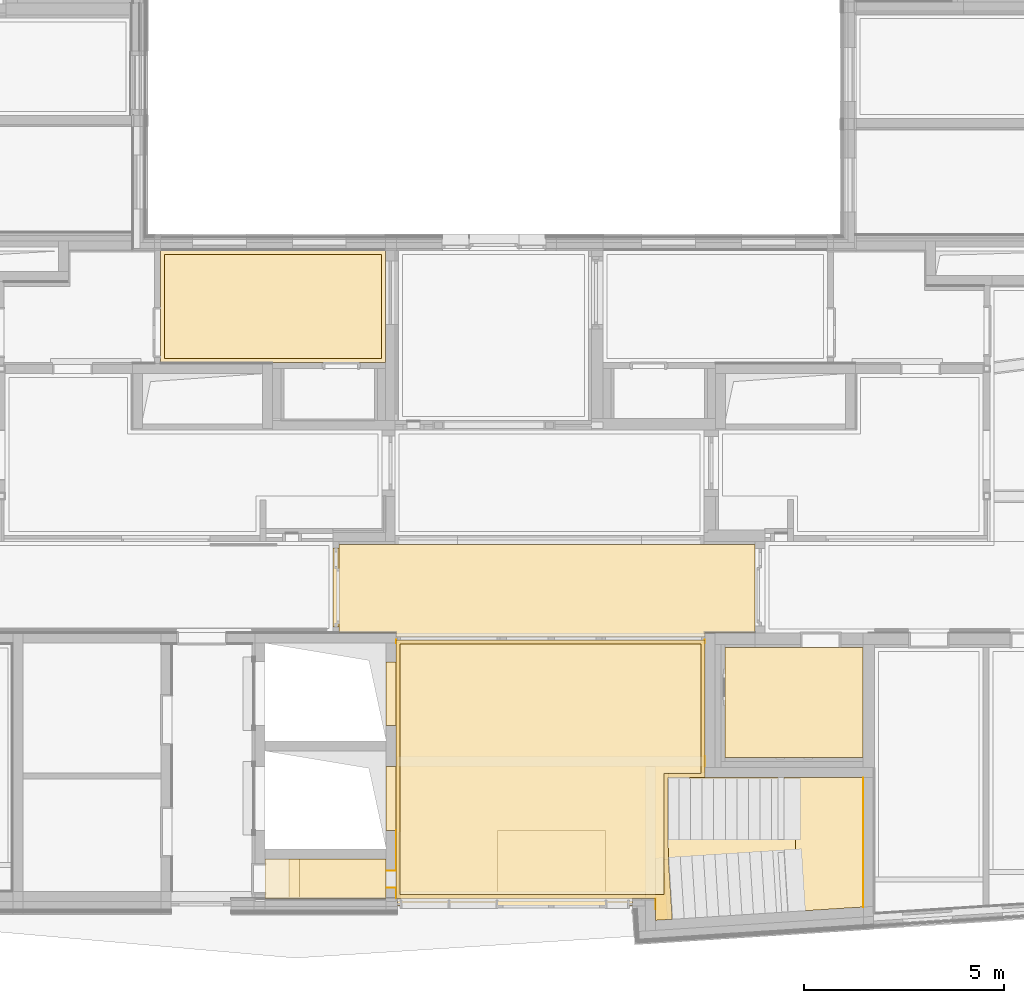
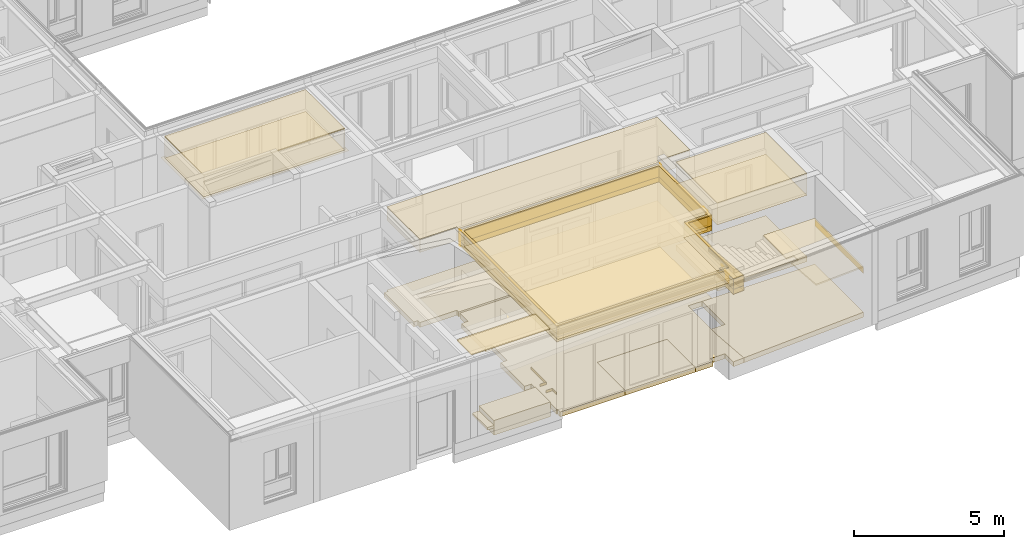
# One storey, part 167 of 207: 33 coverings.
"""IFC4 building model written with IfcOpenShell, lengths in metres."""

from ifc_helpers import new_model, entity, si_unit, converted_unit, derived_unit, frame, frame_2d, origin, origin_with_axes, place, context, subcontext, project, spatial, polyline, rectangle, outline, extrude, material, layer, layer_set, layer_usage, element, save


model = new_model("IFC4")

# Units and contexts
model_context = context("Model", 3, precision=1e-05, world=origin())
body_context = subcontext(model_context, "Body", "Model", "MODEL_VIEW")
ifc_project = project(units=[si_unit("LENGTHUNIT", "METRE"), si_unit("AREAUNIT", "SQUARE_METRE"), si_unit("VOLUMEUNIT", "CUBIC_METRE"), si_unit("MASSUNIT", "GRAM", prefix="KILO"), converted_unit("PLANEANGLEUNIT", "DEGREE", entity("IfcPlaneAngleMeasure", 0.0174532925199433), si_unit("PLANEANGLEUNIT", "RADIAN"), dimensions=[0, 0, 0, 0, 0, 0, 0]), derived_unit("THERMALTRANSMITTANCEUNIT", [(si_unit("POWERUNIT", "WATT"), 1), (si_unit("THERMODYNAMICTEMPERATUREUNIT", "KELVIN"), -1), (si_unit("LENGTHUNIT", "METRE"), -2)]), derived_unit("VOLUMETRICFLOWRATEUNIT", [(si_unit("LENGTHUNIT", "METRE"), 3), (converted_unit("TIMEUNIT", "hour", entity("IfcTimeMeasure", 3600.0), si_unit("TIMEUNIT", "SECOND"), dimensions=[0, 0, 1, 0, 0, 0, 0]), -1), (si_unit("LENGTHUNIT", "METRE"), -1)])], contexts=[model_context])

# Site, building, storey, space
site_placement = place(None, origin())
site = spatial("IfcSite", under=ifc_project, at=site_placement, Name="Psychiatrie Neubau Wunstorf", CompositionType="ELEMENT")
building_placement = place(site_placement, origin())
building = spatial("IfcBuilding", under=site, at=building_placement, Name="Neubau H2 Stationsgebäude", CompositionType="ELEMENT")
storey_placement = place(building_placement, frame((0.0, 0.0, -0.2)))
storey = spatial("IfcBuildingStorey", under=building, at=storey_placement, Name="H2 Ebene 0", CompositionType="ELEMENT", Elevation=-0.2)
space_1_placement = place(storey_placement, frame((49.1196999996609, 0.436002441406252, 0.0)))
space_1 = spatial("IfcSpace", under=storey, at=space_1_placement, Name="WUN-H2-E00-F01", CompositionType="ELEMENT")

# Coverings
ifc_material_1 = material(Name="Ku1")
ifc_layer_1 = layer(ifc_material_1, 0.2)
ifc_layer_set_1 = layer_set([ifc_layer_1])
ifc_layer_usage_1 = layer_usage(ifc_layer_set_1, "AXIS3", "POSITIVE", 0.0)
covering_1_placement = place(space_1_placement, frame((-0.154999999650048, -0.0800000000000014, 0.0)))
element("IfcCovering", 1, at=covering_1_placement, inside=space_1, material=ifc_layer_usage_1, Name="PVC Bahnenware Holzoptik", PredefinedType="FLOORING", context=body_context, shape_type="SweptSolid", body=[
    extrude(rectangle(XDim=0.08, YDim=2.56, at=frame_2d((1.28, -0.0400000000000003), x_axis=(0.0, -1.0))), frame((4.18429982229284, 0.0800000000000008, 0.0), z_axis=(0.0, 0.0, 1.0), x_axis=(1.0, 0.0, 0.0)), (0.0, 0.0, 1.0), 0.2),
    extrude(rectangle(XDim=0.155, YDim=1.9825, at=frame_2d((0.0775, 0.99125), x_axis=(1.0, 0.0))), frame((0.0, 0.32399740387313, 0.0), z_axis=(0.0, 0.0, 1.0), x_axis=(1.0, 0.0, 0.0)), (0.0, 0.0, 1.0), 0.2),
    extrude(outline(polyline([(10.4196138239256, 2.30660565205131), (0.0, 2.30649724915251), (0.0, 0.112997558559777), (1.43030000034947, 0.112997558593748), (1.43030000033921, 0.0), (9.15830000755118, 0.0), (9.15829513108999, 0.112997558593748), (10.4196138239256, 0.112997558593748), (10.4196138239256, 2.30660565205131)])), frame((0.154999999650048, 0.0800000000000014, 0.0), z_axis=(0.0, 0.0, 1.0), x_axis=(1.0, 0.0, 0.0)), (0.0, 0.0, 1.0), 0.2),
])
ifc_material_2 = material()
ifc_layer_2 = layer(ifc_material_2, 0.036)
ifc_layer_set_2 = layer_set([ifc_layer_2])
ifc_layer_usage_2 = layer_usage(ifc_layer_set_2, "AXIS3", "POSITIVE", 0.0)
covering_2_placement = place(space_1_placement, frame((0.0, 0.0, 3.6)))
element("IfcCovering", 2, at=covering_2_placement, inside=space_1, material=ifc_layer_usage_2, Name="Gipsfaserplatten 2-lagig (BSK)", PredefinedType="CEILING", context=body_context, shape_type="SweptSolid", body=[
    extrude(outline(polyline([(0.0, 0.000108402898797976), (10.4196138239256, 0.0), (10.4196138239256, 2.19360809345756), (9.15829513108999, 2.19360809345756), (9.15830000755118, 2.30660565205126), (1.43030000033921, 2.30660565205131), (1.43030000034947, 2.19360809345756), (0.0, 2.19360809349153), (0.0, 0.000108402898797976)])), frame((0.0, 2.30660565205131, 0.0), z_axis=(0.0, 0.0, -1.0), x_axis=(1.0, 0.0, 0.0)), (0.0, 0.0, 1.0), 0.036),
])
ifc_material_3 = material(Name="Installationshöhe")
ifc_layer_3 = layer(ifc_material_3, 0.514)
ifc_layer_set_3 = layer_set([ifc_layer_3])
ifc_layer_usage_3 = layer_usage(ifc_layer_set_3, "AXIS3", "POSITIVE", 0.0)
covering_3_placement = place(space_1_placement, frame((0.0, 0.0, 3.564)))
element("IfcCovering", 3, at=covering_3_placement, inside=space_1, material=ifc_layer_usage_3, Name="Gipsfaserplatten 2-lagig (BSK)", PredefinedType="CEILING", context=body_context, shape_type="SweptSolid", body=[
    extrude(outline(polyline([(0.0, 0.000108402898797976), (10.4196138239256, 0.0), (10.4196138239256, 2.19360809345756), (9.15829513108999, 2.19360809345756), (9.15830000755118, 2.30660565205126), (1.43030000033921, 2.30660565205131), (1.43030000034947, 2.19360809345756), (0.0, 2.19360809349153), (0.0, 0.000108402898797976)])), frame((0.0, 2.30660565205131, 0.0), z_axis=(0.0, 0.0, -1.0), x_axis=(1.0, 0.0, 0.0)), (0.0, 0.0, 1.0), 0.514),
])

# Space
space_2_placement = place(storey_placement, frame((50.5500000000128, -6.66463793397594, 0.0)))
space_2 = spatial("IfcSpace", under=storey, at=space_2_placement, Name="WUN-H2-E00-T01a", CompositionType="ELEMENT")

# Coverings
ifc_material_4 = material(Name="97")
ifc_layer_4 = layer(ifc_material_4, 0.001)
ifc_layer_set_4 = layer_set([ifc_layer_4])
ifc_layer_usage_4 = layer_usage(ifc_layer_set_4, "AXIS3", "POSITIVE", 0.0)
covering_4_placement = place(space_2_placement, frame((-0.250000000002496, 0.71963762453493, 0.8)))
element("IfcCovering", 4, at=covering_4_placement, inside=space_2, material=ifc_layer_usage_4, Name="Handlauf", PredefinedType="CLADDING", context=body_context, shape_type="SweptSolid", body=[
    extrude(rectangle(XDim=0.1, YDim=0.100908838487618, at=frame_2d((-0.0504544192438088, -0.05), x_axis=(0.0, -1.0))), frame((0.250000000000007, 0.0, 0.0), z_axis=(1.0, 3.60521324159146e-14, 3.6379788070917e-14), x_axis=(3.60521324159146e-14, -1.0, 0.0)), (0.0, 0.0, 1.0), 0.001),
    extrude(rectangle(XDim=0.1, YDim=1.01410336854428, at=frame_2d((-0.50705168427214, -0.05), x_axis=(0.0, -1.0))), frame((0.249999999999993, 0.520908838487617, 0.0), z_axis=(1.0, -7.17476919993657e-15, 0.0), x_axis=(-7.17476919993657e-15, -1.0, 0.0)), (0.0, 0.0, 1.0), 0.001),
    extrude(rectangle(XDim=0.25, YDim=0.1, at=frame_2d((0.125, -0.05), x_axis=(1.0, 0.0))), frame((0.0, 0.100908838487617, 0.0), z_axis=(0.0, 1.0, 0.0), x_axis=(1.0, 0.0, 0.0)), (0.0, 0.0, 1.0), 0.001),
    extrude(rectangle(XDim=0.249999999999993, YDim=0.1, at=frame_2d((0.124999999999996, -0.05), x_axis=(1.0, 0.0))), frame((0.249999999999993, 0.520908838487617, 0.0), z_axis=(0.0, -1.0, 0.0), x_axis=(-1.0, 0.0, 0.0)), (0.0, 0.0, 1.0), 0.001),
])
ifc_material_5 = material(Name="97")
ifc_layer_5 = layer(ifc_material_5, 0.001)
ifc_layer_set_5 = layer_set([ifc_layer_5])
ifc_layer_usage_5 = layer_usage(ifc_layer_set_5, "AXIS3", "POSITIVE", 0.0)
covering_5_placement = place(space_2_placement, frame((-0.250000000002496, 0.550637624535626, 0.8)))
element("IfcCovering", 5, at=covering_5_placement, inside=space_2, material=ifc_layer_usage_5, Name="Handlauf", PredefinedType="CLADDING", context=body_context, shape_type="SweptSolid", body=[
    extrude(rectangle(XDim=1.01410336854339, YDim=0.1, at=frame_2d((0.507051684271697, -0.05), x_axis=(1.0, 0.0))), frame((0.250000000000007, 1.70401220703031, 0.0), z_axis=(1.0, 1.9587119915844e-12, 0.0), x_axis=(1.9587119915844e-12, -1.0, 0.0)), (0.0, 0.0, 1.0), 0.001),
    extrude(rectangle(XDim=0.1, YDim=0.26990883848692, at=frame_2d((0.13495441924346, 0.05), x_axis=(0.0, 1.0))), frame((0.250000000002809, 0.269908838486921, 0.1), z_axis=(1.0, 1.96786777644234e-12, -2.45173331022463e-28), x_axis=(1.96786777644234e-12, -1.0, 0.0)), (0.0, 0.0, 1.0), 0.001),
    extrude(rectangle(XDim=0.25, YDim=0.1, at=frame_2d((0.125, -0.05), x_axis=(1.0, 0.0))), frame((0.0, 0.269908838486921, 0.0), z_axis=(0.0, 1.0, 0.0), x_axis=(1.0, 0.0, 0.0)), (0.0, 0.0, 1.0), 0.001),
    extrude(rectangle(XDim=0.249999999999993, YDim=0.1, at=frame_2d((0.124999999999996, -0.05), x_axis=(1.0, 0.0))), frame((0.249999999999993, 0.689908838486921, 0.0), z_axis=(0.0, -1.0, 0.0), x_axis=(-1.0, 0.0, 0.0)), (0.0, 0.0, 1.0), 0.001),
])
ifc_material_6 = material(Name="SL")
ifc_layer_6 = layer(ifc_material_6, 0.2)
ifc_layer_set_6 = layer_set([ifc_layer_6])
ifc_layer_usage_6 = layer_usage(ifc_layer_set_6, "AXIS3", "POSITIVE", 0.0)
covering_6_placement = place(space_2_placement, frame((2.5358482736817, 0.365137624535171, 0.0)))
element("IfcCovering", 6, at=covering_6_placement, inside=space_2, material=ifc_layer_usage_6, Name="Sauberlaufzone", PredefinedType="FLOORING", context=body_context, shape_type="SweptSolid", body=[
    extrude(rectangle(XDim=2.7, YDim=0.18549999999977, at=frame_2d((-1.35, -0.0927499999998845), x_axis=(-1.0, 3.36849889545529e-16))), frame((2.7, 0.185499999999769, 0.0), z_axis=(0.0, 0.0, 1.0), x_axis=(1.0, 0.0, 0.0)), (0.0, 0.0, 1.0), 0.2),
    extrude(rectangle(XDim=2.7, YDim=1.7, at=frame_2d((1.35, 0.85), x_axis=(1.0, 0.0))), frame((0.0, 0.185500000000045, 0.0), z_axis=(0.0, 0.0, 1.0), x_axis=(1.0, 0.0, 0.0)), (0.0, 0.0, 1.0), 0.2),
])
ifc_material_7 = material(Name="Fl12")
ifc_layer_7 = layer(ifc_material_7, 0.2)
ifc_layer_set_7 = layer_set([ifc_layer_7])
ifc_layer_usage_7 = layer_usage(ifc_layer_set_7, "AXIS3", "POSITIVE", 0.0)
covering_7_placement = place(space_2_placement, frame((-0.250000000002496, 0.0, 0.0)))
element("IfcCovering", 7, at=covering_7_placement, inside=space_2, material=ifc_layer_usage_7, Name="Fliesen Großformat", PredefinedType="FLOORING", context=body_context, shape_type="SweptSolid", body=[
    extrude(rectangle(XDim=5.89, YDim=0.185499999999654, at=frame_2d((-2.945, -0.0927499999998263), x_axis=(-1.0, 3.08826723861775e-16))), frame((6.16999963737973, 0.55063762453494, 0.0), z_axis=(0.0, 0.0, 1.0), x_axis=(1.0, 0.0, 0.0)), (0.0, 0.0, 1.0), 0.2),
    extrude(outline(polyline([(0.25, 7.02064037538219), (0.25, 6.47463762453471), (0.0, 6.47463762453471), (0.0, 4.87463762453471), (0.250000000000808, 4.87463762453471), (0.25, 3.85464983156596), (0.0, 3.85464983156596), (0.0, 2.25464983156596), (0.250000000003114, 2.25464983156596), (0.25000000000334, 0.550637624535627), (6.74338383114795, 0.55063762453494), (6.74338383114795, 0.0), (11.9497936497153, 0.334081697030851), (11.9497936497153, 3.57614661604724), (7.9780000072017, 3.57614661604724), (7.97800000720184, 7.02064037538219), (0.25, 7.02064037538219)]), holes=[polyline([(7.59481552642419, 3.57614661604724), (7.59481552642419, 2.02707420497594), (7.05976078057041, 2.02707420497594), (7.05981552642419, 3.57614661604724), (7.59481552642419, 3.57614661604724)])]), origin_with_axes(), (0.0, 0.0, 1.0), 0.2),
])
ifc_material_8 = material(Name="03")
ifc_layer_8 = layer(ifc_material_8, 0.001)
ifc_layer_set_8 = layer_set([ifc_layer_8])
ifc_layer_usage_8 = layer_usage(ifc_layer_set_8, "AXIS3", "POSITIVE", 0.0)
covering_8_placement = place(space_2_placement, frame((0.0, 0.27759323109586, 2.97)))
element("IfcCovering", 8, at=covering_8_placement, inside=space_2, material=ifc_layer_usage_8, Name="Sichtbetonklasse SB3", PredefinedType="CLADDING", context=body_context, shape_type="SweptSolid", body=[
    extrude(rectangle(XDim=0.63, YDim=0.0809902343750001, at=frame_2d((-0.0404951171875, -0.315), x_axis=(0.0, -1.0))), frame((7.72800000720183, 6.74304714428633, 0.0), z_axis=(-1.0, 0.0, 0.0), x_axis=(0.0, 1.0, 0.0)), (0.0, 0.0, 1.0), 0.001),
    extrude(rectangle(XDim=0.25, YDim=0.35, at=frame_2d((-0.125, 0.175), x_axis=(-1.0, 0.0))), frame((7.72800000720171, 3.8270566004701, 0.63), z_axis=(-1.0, 1.45519152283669e-14, -3.43009430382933e-13), x_axis=(1.45519152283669e-14, 1.0, 0.0)), (0.0, 0.0, 1.0), 0.001),
    extrude(rectangle(XDim=0.0809902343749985, YDim=0.63, at=frame_2d((-0.0404951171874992, 0.315), x_axis=(-1.0, 0.0))), frame((0.0, 6.66205690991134, 0.63), z_axis=(1.0, -1.53172883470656e-11, -1.99222648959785e-12), x_axis=(-1.53172883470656e-11, -1.0, 0.0)), (0.0, 0.0, 1.0), 0.001),
    extrude(rectangle(XDim=0.273044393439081, YDim=0.35, at=frame_2d((-0.13652219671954, 0.175), x_axis=(-1.0, 0.0))), frame((6.49338383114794, 0.0, 0.63), z_axis=(1.0, 1.33237630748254e-14, 1.03942251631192e-14), x_axis=(1.33237630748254e-14, -1.0, 0.0)), (0.0, 0.0, 1.0), 0.001),
])
ifc_material_9 = material()
ifc_layer_9 = layer(ifc_material_9, 0.036)
ifc_layer_set_9 = layer_set([ifc_layer_9])
ifc_layer_usage_9 = layer_usage(ifc_layer_set_9, "AXIS3", "POSITIVE", 0.0)
covering_9_placement = place(space_2_placement, frame((0.1, 0.650637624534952, 3.6)))
element("IfcCovering", 9, at=covering_9_placement, inside=space_2, material=ifc_layer_usage_9, Name="Gipsfaserplatten 2-lagig (BSK)", PredefinedType="CEILING", context=body_context, shape_type="SweptSolid", body=[
    extrude(outline(polyline([(0.0, 1.22070312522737e-05), (7.52800000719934, 0.0), (7.52800000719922, 3.24449375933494), (6.61001546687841, 3.24396971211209), (6.60952053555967, 6.27000275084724), (0.0, 6.27000275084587), (0.0, 1.22070312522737e-05)])), frame((0.0, 6.27000275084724, 0.0), z_axis=(0.0, 0.0, -1.0), x_axis=(1.0, 0.0, 0.0)), (0.0, 0.0, 1.0), 0.036),
])
ifc_material_10 = material(Name="Installationshöhe")
ifc_layer_10 = layer(ifc_material_10, 0.414)
ifc_layer_set_10 = layer_set([ifc_layer_10])
ifc_layer_usage_10 = layer_usage(ifc_layer_set_10, "AXIS3", "POSITIVE", 0.0)
covering_10_placement = place(space_2_placement, frame((0.1, 0.650637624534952, 3.564)))
element("IfcCovering", 10, at=covering_10_placement, inside=space_2, material=ifc_layer_usage_10, Name="Gipsfaserplatten 2-lagig (BSK)", PredefinedType="CEILING", context=body_context, shape_type="SweptSolid", body=[
    extrude(outline(polyline([(0.0, 1.22070312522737e-05), (7.52800000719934, 0.0), (7.52800000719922, 3.24449375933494), (6.61001546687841, 3.24396971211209), (6.60952053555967, 6.27000275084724), (0.0, 6.27000275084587), (0.0, 1.22070312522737e-05)])), frame((0.0, 6.27000275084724, 0.0), z_axis=(0.0, 0.0, -1.0), x_axis=(1.0, 0.0, 0.0)), (0.0, 0.0, 1.0), 0.414),
])
ifc_material_11 = material(Name="Aa")
ifc_layer_11 = layer(ifc_material_11, 0.2)
ifc_layer_set_11 = layer_set([ifc_layer_11])
ifc_layer_usage_11 = layer_usage(ifc_layer_set_11, "AXIS3", "POSITIVE", 0.0)
covering_11_placement = place(space_2_placement, frame((0.1, 0.650637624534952, 3.15)))
element("IfcCovering", 11, at=covering_11_placement, inside=space_2, material=ifc_layer_usage_11, Name="Gipsfaserplatten 2-lagig (BSK)", PredefinedType="CEILING", context=body_context, shape_type="SweptSolid", body=[
    extrude(outline(polyline([(0.0, 1.22070312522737e-05), (7.52800000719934, 0.0), (7.52800000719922, 3.24449375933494), (6.61001546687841, 3.24396971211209), (6.60952053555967, 6.27000275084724), (0.0, 6.27000275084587), (0.0, 1.22070312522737e-05)])), frame((0.0, 6.27000275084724, 0.0), z_axis=(0.0, 0.0, -1.0), x_axis=(1.0, 0.0, 0.0)), (0.0, 0.0, 1.0), 0.2),
])
ifc_material_12 = material(Name="D1")
ifc_layer_12 = layer(ifc_material_12, 0.001)
ifc_layer_set_12 = layer_set([ifc_layer_12])
ifc_layer_usage_12 = layer_usage(ifc_layer_set_12, "AXIS3", "POSITIVE", 0.0)
covering_12_placement = place(space_2_placement, frame((0.1, 0.650637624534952, 2.95)))
element("IfcCovering", 12, at=covering_12_placement, inside=space_2, material=ifc_layer_usage_12, Name="Gipsfaserplatten 2-lagig (BSK)", PredefinedType="CEILING", context=body_context, shape_type="SweptSolid", body=[
    extrude(outline(polyline([(0.0, 1.22070312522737e-05), (7.52800000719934, 0.0), (7.52800000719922, 3.24449375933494), (6.61001546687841, 3.24396971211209), (6.60952053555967, 6.27000275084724), (0.0, 6.27000275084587), (0.0, 1.22070312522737e-05)])), frame((0.0, 6.27000275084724, 0.0), z_axis=(0.0, 0.0, -1.0), x_axis=(1.0, 0.0, 0.0)), (0.0, 0.0, 1.0), 0.001),
])
ifc_material_13 = material()
ifc_layer_13 = layer(ifc_material_13, 0.036)
ifc_layer_set_13 = layer_set([ifc_layer_13])
ifc_layer_usage_13 = layer_usage(ifc_layer_set_13, "AXIS3", "POSITIVE", 0.0)
covering_13_placement = place(space_2_placement, frame((0.0, 0.0, 3.6)))
element("IfcCovering", 13, at=covering_13_placement, inside=space_2, material=ifc_layer_usage_13, Name="Gipsfaserplatten 2-lagig (BSK)", PredefinedType="CEILING", context=body_context, shape_type="SweptSolid", body=[
    extrude(outline(polyline([(0.0, 6.47000275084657), (0.0, 0.0), (7.72800000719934, 0.0), (7.7280000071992, 3.44449375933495), (6.8098155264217, 3.44449375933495), (6.80976074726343, 4.99450854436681), (6.81627100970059, 5.49865132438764), (6.91228493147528, 6.99376058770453), (6.49338383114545, 7.02064037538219), (6.49338383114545, 6.47000275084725), (0.0, 6.47000275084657)]), holes=[polyline([(7.62800000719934, 0.100000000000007), (0.1, 0.100012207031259), (0.100000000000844, 6.37000275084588), (6.70952053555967, 6.37000275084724), (6.71001546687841, 3.3439697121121), (7.62800000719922, 3.34449375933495), (7.62800000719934, 0.100000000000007)])]), frame((0.0, 7.02064037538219, 0.0), z_axis=(0.0, 0.0, -1.0), x_axis=(1.0, 0.0, 0.0)), (0.0, 0.0, 1.0), 0.036),
])
ifc_material_14 = material(Name="Installationshöhe")
ifc_layer_14 = layer(ifc_material_14, 0.414)
ifc_layer_set_14 = layer_set([ifc_layer_14])
ifc_layer_usage_14 = layer_usage(ifc_layer_set_14, "AXIS3", "POSITIVE", 0.0)
covering_14_placement = place(space_2_placement, frame((0.0, 0.0, 3.564)))
element("IfcCovering", 14, at=covering_14_placement, inside=space_2, material=ifc_layer_usage_14, Name="Gipsfaserplatten 2-lagig (BSK)", PredefinedType="CEILING", context=body_context, shape_type="SweptSolid", body=[
    extrude(outline(polyline([(0.0, 6.47000275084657), (0.0, 0.0), (7.72800000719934, 0.0), (7.7280000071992, 3.44449375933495), (6.8098155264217, 3.44449375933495), (6.80976074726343, 4.99450854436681), (6.81627100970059, 5.49865132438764), (6.91228493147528, 6.99376058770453), (6.49338383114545, 7.02064037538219), (6.49338383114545, 6.47000275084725), (0.0, 6.47000275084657)]), holes=[polyline([(7.62800000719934, 0.100000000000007), (0.1, 0.100012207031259), (0.100000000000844, 6.37000275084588), (6.70952053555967, 6.37000275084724), (6.71001546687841, 3.3439697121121), (7.62800000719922, 3.34449375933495), (7.62800000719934, 0.100000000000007)])]), frame((0.0, 7.02064037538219, 0.0), z_axis=(0.0, 0.0, -1.0), x_axis=(1.0, 0.0, 0.0)), (0.0, 0.0, 1.0), 0.414),
])
ifc_material_15 = material(Name="A1")
ifc_layer_15 = layer(ifc_material_15, 0.2)
ifc_layer_set_15 = layer_set([ifc_layer_15])
ifc_layer_usage_15 = layer_usage(ifc_layer_set_15, "AXIS3", "POSITIVE", 0.0)
covering_15_placement = place(space_2_placement, frame((0.0, 0.0, 3.15)))
element("IfcCovering", 15, at=covering_15_placement, inside=space_2, material=ifc_layer_usage_15, Name="Gipsfaserplatten 2-lagig (BSK)", PredefinedType="CEILING", context=body_context, shape_type="SweptSolid", body=[
    extrude(outline(polyline([(0.0, 6.47000275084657), (0.0, 0.0), (7.72800000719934, 0.0), (7.7280000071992, 3.44449375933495), (6.8098155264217, 3.44449375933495), (6.80976074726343, 4.99450854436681), (6.81627100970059, 5.49865132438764), (6.91228493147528, 6.99376058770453), (6.49338383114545, 7.02064037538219), (6.49338383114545, 6.47000275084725), (0.0, 6.47000275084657)]), holes=[polyline([(7.62800000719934, 0.100000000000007), (0.1, 0.100012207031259), (0.100000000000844, 6.37000275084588), (6.70952053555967, 6.37000275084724), (6.71001546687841, 3.3439697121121), (7.62800000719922, 3.34449375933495), (7.62800000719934, 0.100000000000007)])]), frame((0.0, 7.02064037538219, 0.0), z_axis=(0.0, 0.0, -1.0), x_axis=(1.0, 0.0, 0.0)), (0.0, 0.0, 1.0), 0.2),
])
ifc_material_16 = material(Name="D1")
ifc_layer_16 = layer(ifc_material_16, 0.001)
ifc_layer_set_16 = layer_set([ifc_layer_16])
ifc_layer_usage_16 = layer_usage(ifc_layer_set_16, "AXIS3", "POSITIVE", 0.0)
covering_16_placement = place(space_2_placement, frame((0.0, 0.0, 2.95)))
element("IfcCovering", 16, at=covering_16_placement, inside=space_2, material=ifc_layer_usage_16, Name="Gipsfaserplatten 2-lagig (BSK)", PredefinedType="CEILING", context=body_context, shape_type="SweptSolid", body=[
    extrude(outline(polyline([(0.0, 6.47000275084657), (0.0, 0.0), (7.72800000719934, 0.0), (7.7280000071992, 3.44449375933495), (6.8098155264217, 3.44449375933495), (6.80976074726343, 4.99450854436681), (6.81627100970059, 5.49865132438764), (6.91228493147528, 6.99376058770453), (6.49338383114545, 7.02064037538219), (6.49338383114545, 6.47000275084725), (0.0, 6.47000275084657)]), holes=[polyline([(7.62800000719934, 0.100000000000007), (0.1, 0.100012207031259), (0.100000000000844, 6.37000275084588), (6.70952053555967, 6.37000275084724), (6.71001546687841, 3.3439697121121), (7.62800000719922, 3.34449375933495), (7.62800000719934, 0.100000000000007)])]), frame((0.0, 7.02064037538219, 0.0), z_axis=(0.0, 0.0, -1.0), x_axis=(1.0, 0.0, 0.0)), (0.0, 0.0, 1.0), 0.001),
])

# Space
space_3_placement = place(storey_placement, frame((57.3597607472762, -6.63775814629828, 0.0)))
space_3 = spatial("IfcSpace", under=storey, at=space_3_placement, Name="WUN-H2-E00-F07", CompositionType="ELEMENT")

# Coverings
ifc_material_17 = material(Name="F12")
ifc_layer_17 = layer(ifc_material_17, 0.2)
ifc_layer_set_17 = layer_set([ifc_layer_17])
ifc_layer_usage_17 = layer_usage(ifc_layer_set_17, "AXIS3", "POSITIVE", 0.0)
covering_17_placement = place(space_3_placement, origin())
element("IfcCovering", 17, at=covering_17_placement, inside=space_3, material=ifc_layer_usage_17, Name="Fliesen Großformat", PredefinedType="FLOORING", context=body_context, shape_type="SweptSolid", body=[
    extrude(outline(polyline([(3.33044881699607e-08, 2.00019441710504), (0.0, 1.99925204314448), (0.00651026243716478, 1.49510926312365), (0.102524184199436, 0.0), (4.8900329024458, 0.307201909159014), (4.8900329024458, 3.54926682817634), (0.535054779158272, 3.54926682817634), (0.535054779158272, 2.00019441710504), (3.33044881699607e-08, 2.00019441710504)])), origin_with_axes(), (0.0, 0.0, 1.0), 0.2),
])
ifc_material_18 = material(Name="F12")
ifc_layer_18 = layer(ifc_material_18, 0.06)
ifc_layer_set_18 = layer_set([ifc_layer_18])
ifc_layer_usage_18 = layer_usage(ifc_layer_set_18, "AXIS3", "POSITIVE", 0.0)
covering_18_placement = place(space_3_placement, frame((2.9002464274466, 0.185703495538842, 2.015)))
element("IfcCovering", 18, at=covering_18_placement, inside=space_3, material=ifc_layer_usage_18, PredefinedType="FLOORING", context=body_context, shape_type="SweptSolid", body=[
    extrude(outline(polyline([(0.289706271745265, 1.51384219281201), (0.000302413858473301, 1.49525706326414), (0.0963258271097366, 0.0), (1.98978647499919, 0.121498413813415), (1.98978647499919, 3.36356333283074), (8.25303792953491e-06, 3.36361097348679), (0.0, 1.8133579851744), (0.289770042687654, 1.81354854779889), (0.289706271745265, 1.51384219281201)])), origin_with_axes(), (0.0, 0.0, 1.0), 0.06),
])
ifc_material_19 = material(Name="03")
ifc_layer_19 = layer(ifc_material_19, 0.001)
ifc_layer_set_19 = layer_set([ifc_layer_19])
ifc_layer_usage_19 = layer_usage(ifc_layer_set_19, "AXIS3", "POSITIVE", 0.0)
covering_19_placement = place(space_3_placement, frame((4.89003290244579, 0.307201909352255, 1.7655)))
element("IfcCovering", 19, at=covering_19_placement, inside=space_3, material=ifc_layer_usage_19, Name="Sichtbetonklasse SB3", PredefinedType="CLADDING", context=body_context, shape_type="SweptSolid", body=[
    extrude(rectangle(XDim=0.25, YDim=3.24206491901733, at=frame_2d((-1.62103245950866, -0.125), x_axis=(-1.81898940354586e-15, -1.0))), frame((0.0, 3.24206491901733, 0.0), z_axis=(-1.0, -1.12211781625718e-15, 4.36557456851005e-14), x_axis=(-1.12211781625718e-15, 1.0, 0.0)), (0.0, 0.0, 1.0), 0.001),
])

# Space
space_4_placement = place(storey_placement, frame((58.7780000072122, -2.58849131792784, 0.0)))
space_4 = spatial("IfcSpace", under=storey, at=space_4_placement, Name="WUN-H2-E00-062", CompositionType="ELEMENT")

# Coverings
ifc_material_20 = material(Name="Fl1")
ifc_layer_20 = layer(ifc_material_20, 0.2)
ifc_layer_set_20 = layer_set([ifc_layer_20])
ifc_layer_usage_20 = layer_usage(ifc_layer_set_20, "AXIS3", "POSITIVE", 0.0)
covering_20_placement = place(space_4_placement, origin())
element("IfcCovering", 20, at=covering_20_placement, inside=space_4, material=ifc_layer_usage_20, Name="Fliesen", PredefinedType="FLOORING", context=body_context, shape_type="SweptSolid", body=[
    extrude(rectangle(XDim=2.75999131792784, YDim=3.46179364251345, at=frame_2d((1.73089682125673, -1.37999565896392), x_axis=(0.0, -1.0))), frame((0.0, 2.75999131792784, 0.0), z_axis=(0.0, 0.0, 1.0), x_axis=(1.0, 0.0, 0.0)), (0.0, 0.0, 1.0), 0.2),
])
ifc_material_21 = material()
ifc_layer_21 = layer(ifc_material_21, 0.036)
ifc_layer_set_21 = layer_set([ifc_layer_21])
ifc_layer_usage_21 = layer_usage(ifc_layer_set_21, "AXIS3", "POSITIVE", 0.0)
covering_21_placement = place(space_4_placement, frame((0.0, 0.0, 3.6)))
element("IfcCovering", 21, at=covering_21_placement, inside=space_4, material=ifc_layer_usage_21, Name="Gipsfaserplatten 2-lagig (BSK)", PredefinedType="CEILING", context=body_context, shape_type="SweptSolid", body=[
    extrude(rectangle(XDim=2.75999131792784, YDim=3.46179364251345, at=frame_2d((1.73089682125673, -1.37999565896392), x_axis=(0.0, -1.0))), frame((0.0, 0.0, 0.0), z_axis=(0.0, 0.0, -1.0), x_axis=(1.0, 0.0, 0.0)), (0.0, 0.0, 1.0), 0.036),
])
ifc_material_22 = material(Name="Installationshöhe")
ifc_layer_22 = layer(ifc_material_22, 0.764)
ifc_layer_set_22 = layer_set([ifc_layer_22])
ifc_layer_usage_22 = layer_usage(ifc_layer_set_22, "AXIS3", "POSITIVE", 0.0)
covering_22_placement = place(space_4_placement, frame((0.0, 0.0, 3.564)))
element("IfcCovering", 22, at=covering_22_placement, inside=space_4, material=ifc_layer_usage_22, PredefinedType="CEILING", context=body_context, shape_type="SweptSolid", body=[
    extrude(rectangle(XDim=2.75999131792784, YDim=3.46179364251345, at=frame_2d((1.73089682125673, -1.37999565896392), x_axis=(0.0, -1.0))), frame((0.0, 0.0, 0.0), z_axis=(0.0, 0.0, -1.0), x_axis=(1.0, 0.0, 0.0)), (0.0, 0.0, 1.0), 0.764),
])
ifc_material_23 = material(Name="B")
ifc_layer_23 = layer(ifc_material_23, 0.1)
ifc_layer_set_23 = layer_set([ifc_layer_23])
ifc_layer_usage_23 = layer_usage(ifc_layer_set_23, "AXIS3", "POSITIVE", 0.0)
covering_23_placement = place(space_4_placement, frame((0.0, 0.0, 2.8)))
element("IfcCovering", 23, at=covering_23_placement, inside=space_4, material=ifc_layer_usage_23, Name="Gipskarton, imprägniert", PredefinedType="CEILING", context=body_context, shape_type="SweptSolid", body=[
    extrude(rectangle(XDim=2.75999131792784, YDim=3.46179364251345, at=frame_2d((1.73089682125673, -1.37999565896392), x_axis=(0.0, -1.0))), frame((0.0, 0.0, 0.0), z_axis=(0.0, 0.0, -1.0), x_axis=(1.0, 0.0, 0.0)), (0.0, 0.0, 1.0), 0.1),
])
ifc_material_24 = material(Name="D1")
ifc_layer_24 = layer(ifc_material_24, 0.001)
ifc_layer_set_24 = layer_set([ifc_layer_24])
ifc_layer_usage_24 = layer_usage(ifc_layer_set_24, "AXIS3", "POSITIVE", 0.0)
covering_24_placement = place(space_4_placement, frame((0.0, 0.0, 2.7)))
element("IfcCovering", 24, at=covering_24_placement, inside=space_4, material=ifc_layer_usage_24, PredefinedType="CEILING", context=body_context, shape_type="SweptSolid", body=[
    extrude(rectangle(XDim=2.75999131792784, YDim=3.46179364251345, at=frame_2d((1.73089682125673, -1.37999565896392), x_axis=(0.0, -1.0))), frame((0.0, 0.0, 0.0), z_axis=(0.0, 0.0, -1.0), x_axis=(1.0, 0.0, 0.0)), (0.0, 0.0, 1.0), 0.001),
])

# Space
space_5_placement = place(storey_placement, frame((44.65, 7.29999969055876, 0.0)))
space_5 = spatial("IfcSpace", under=storey, at=space_5_placement, Name="WUN-H2-E00-012a", CompositionType="ELEMENT")

# Coverings
ifc_material_25 = material(Name="D1")
ifc_layer_25 = layer(ifc_material_25, 0.001)
ifc_layer_set_25 = layer_set([ifc_layer_25])
ifc_layer_usage_25 = layer_usage(ifc_layer_set_25, "AXIS3", "POSITIVE", 0.0)
covering_25_placement = place(space_5_placement, frame((0.0, 0.0, 2.7)))
element("IfcCovering", 25, at=covering_25_placement, inside=space_5, material=ifc_layer_usage_25, Name="Gipsfaserplatten 2-lagig (BSK)", PredefinedType="CEILING", context=body_context, shape_type="SweptSolid", body=[
    extrude(outline(polyline([(0.0, 2.81400000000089), (0.0, 0.0), (5.63600000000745, 0.0), (5.63600000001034, 2.81400000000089), (0.0, 2.81400000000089)]), holes=[polyline([(0.1, 2.71400000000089), (5.53600000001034, 2.71400000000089), (5.53600000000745, 0.100000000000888), (0.1, 0.1), (0.1, 2.71400000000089)])]), frame((0.0, 2.81400000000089, 0.0), z_axis=(0.0, 0.0, -1.0), x_axis=(1.0, 0.0, 0.0)), (0.0, 0.0, 1.0), 0.001),
])
ifc_material_26 = material()
ifc_layer_26 = layer(ifc_material_26, 0.036)
ifc_layer_set_26 = layer_set([ifc_layer_26])
ifc_layer_usage_26 = layer_usage(ifc_layer_set_26, "AXIS3", "POSITIVE", 0.0)
covering_26_placement = place(space_5_placement, frame((0.1, 0.1, 3.6)))
element("IfcCovering", 26, at=covering_26_placement, inside=space_5, material=ifc_layer_usage_26, Name="Gipsfaserplatten 2-lagig (BSK)", PredefinedType="CEILING", context=body_context, shape_type="SweptSolid", body=[
    extrude(rectangle(XDim=5.43600000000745, YDim=2.614, at=frame_2d((2.71800000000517, 1.30700000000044), x_axis=(1.0, 1.6329411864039e-13))), frame((0.0, 2.61400000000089, 0.0), z_axis=(0.0, 0.0, -1.0), x_axis=(1.0, 0.0, 0.0)), (0.0, 0.0, 1.0), 0.036),
])
ifc_material_27 = material(Name="Installationshöhe")
ifc_layer_27 = layer(ifc_material_27, 0.764)
ifc_layer_set_27 = layer_set([ifc_layer_27])
ifc_layer_usage_27 = layer_usage(ifc_layer_set_27, "AXIS3", "POSITIVE", 0.0)
covering_27_placement = place(space_5_placement, frame((0.1, 0.1, 3.564)))
element("IfcCovering", 27, at=covering_27_placement, inside=space_5, material=ifc_layer_usage_27, Name="Gipsfaserplatten 2-lagig (BSK)", PredefinedType="CEILING", context=body_context, shape_type="SweptSolid", body=[
    extrude(rectangle(XDim=5.43600000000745, YDim=2.614, at=frame_2d((2.71800000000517, 1.30700000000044), x_axis=(1.0, 1.6329411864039e-13))), frame((0.0, 2.61400000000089, 0.0), z_axis=(0.0, 0.0, -1.0), x_axis=(1.0, 0.0, 0.0)), (0.0, 0.0, 1.0), 0.764),
])
ifc_material_28 = material(Name="H7b")
ifc_layer_28 = layer(ifc_material_28, 0.1)
ifc_layer_set_28 = layer_set([ifc_layer_28])
ifc_layer_usage_28 = layer_usage(ifc_layer_set_28, "AXIS3", "POSITIVE", 0.0)
covering_28_placement = place(space_5_placement, frame((0.1, 0.1, 2.8)))
element("IfcCovering", 28, at=covering_28_placement, inside=space_5, material=ifc_layer_usage_28, Name="Kühldecke gelocht", PredefinedType="CEILING", context=body_context, shape_type="SweptSolid", body=[
    extrude(rectangle(XDim=5.43600000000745, YDim=2.614, at=frame_2d((2.71800000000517, 1.30700000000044), x_axis=(1.0, 1.6329411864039e-13))), frame((0.0, 2.61400000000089, 0.0), z_axis=(0.0, 0.0, -1.0), x_axis=(1.0, 0.0, 0.0)), (0.0, 0.0, 1.0), 0.1),
])
ifc_material_29 = material(Name="D1")
ifc_layer_29 = layer(ifc_material_29, 0.001)
ifc_layer_set_29 = layer_set([ifc_layer_29])
ifc_layer_usage_29 = layer_usage(ifc_layer_set_29, "AXIS3", "POSITIVE", 0.0)
covering_29_placement = place(space_5_placement, frame((0.1, 0.1, 2.7)))
element("IfcCovering", 29, at=covering_29_placement, inside=space_5, material=ifc_layer_usage_29, Name="Gipsfaserplatten 2-lagig (BSK)", PredefinedType="CEILING", context=body_context, shape_type="SweptSolid", body=[
    extrude(rectangle(XDim=5.43600000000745, YDim=2.614, at=frame_2d((2.71800000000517, 1.30700000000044), x_axis=(1.0, 1.6329411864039e-13))), frame((0.0, 2.61400000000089, 0.0), z_axis=(0.0, 0.0, -1.0), x_axis=(1.0, 0.0, 0.0)), (0.0, 0.0, 1.0), 0.001),
])

# Space
space_6_placement = place(storey_placement, frame((47.2700048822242, -6.1210003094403, 0.0)))
space_6 = spatial("IfcSpace", under=storey, at=space_6_placement, Name="WUN-H2-E00-S01", CompositionType="ELEMENT")

# Coverings
ifc_material_30 = material(Name="Gitterrost")
ifc_layer_30 = layer(ifc_material_30, 0.6)
ifc_layer_set_30 = layer_set([ifc_layer_30])
ifc_layer_usage_30 = layer_usage(ifc_layer_set_30, "AXIS3", "POSITIVE", 0.0)
covering_30_placement = place(space_6_placement, frame((0.85999999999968, 0.0, 0.0)))
element("IfcCovering", 30, at=covering_30_placement, inside=space_6, material=ifc_layer_usage_30, Name="Ink . Installationsbau 50cm", PredefinedType="FLOORING", context=body_context, shape_type="SweptSolid", body=[
    extrude(rectangle(XDim=2.1699951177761, YDim=0.996000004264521, at=frame_2d((1.08499755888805, 0.49800000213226), x_axis=(1.0, 0.0))), origin_with_axes(), (0.0, 0.0, 1.0), 0.6),
])
ifc_material_31 = material(Name="Gitterrost")
ifc_layer_31 = layer(ifc_material_31, 0.1)
ifc_layer_set_31 = layer_set([ifc_layer_31])
ifc_layer_usage_31 = layer_usage(ifc_layer_set_31, "AXIS3", "POSITIVE", 0.0)
covering_31_placement = place(space_6_placement, frame((0.59999999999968, 0.0, 0.3)))
element("IfcCovering", 31, at=covering_31_placement, inside=space_6, material=ifc_layer_usage_31, Name="Gitterrost Treppenstufe", PredefinedType="FLOORING", context=body_context, shape_type="SweptSolid", body=[
    extrude(rectangle(XDim=0.26, YDim=0.995999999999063, at=frame_2d((-0.13, -0.497999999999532), x_axis=(-1.0, 0.0))), frame((0.26, 0.995999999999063, 0.0), z_axis=(0.0, 0.0, 1.0), x_axis=(1.0, 0.0, 0.0)), (0.0, 0.0, 1.0), 0.1),
])
ifc_material_32 = material(Name="C/C")
ifc_layer_32 = layer(ifc_material_32, 0.036)
ifc_layer_set_32 = layer_set([ifc_layer_32])
ifc_layer_usage_32 = layer_usage(ifc_layer_set_32, "AXIS3", "POSITIVE", 0.0)
covering_32_placement = place(space_6_placement, frame((0.0, 0.0, 3.6)))
element("IfcCovering", 32, at=covering_32_placement, inside=space_6, material=ifc_layer_usage_32, Name="Gipsfaserplatten 2-lagig (BSK)", PredefinedType="CEILING", context=body_context, shape_type="SweptSolid", body=[
    extrude(rectangle(XDim=3.02999511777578, YDim=0.996000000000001, at=frame_2d((-1.51499755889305, -0.498), x_axis=(-1.0, 0.0))), frame((3.0299951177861, 0.0, 0.0), z_axis=(0.0, 0.0, -1.0), x_axis=(1.0, 0.0, 0.0)), (0.0, 0.0, 1.0), 0.036),
])
ifc_material_33 = material(Name="D4")
ifc_layer_33 = layer(ifc_material_33, 0.001)
ifc_layer_set_33 = layer_set([ifc_layer_33])
ifc_layer_usage_33 = layer_usage(ifc_layer_set_33, "AXIS3", "POSITIVE", 0.0)
covering_33_placement = place(space_6_placement, frame((0.0, 0.0, 3.564)))
element("IfcCovering", 33, at=covering_33_placement, inside=space_6, material=ifc_layer_usage_33, Name="Gipsfaserplatten 2-lagig (BSK)", PredefinedType="CEILING", context=body_context, shape_type="SweptSolid", body=[
    extrude(rectangle(XDim=3.02999511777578, YDim=0.996000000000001, at=frame_2d((-1.51499755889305, -0.498), x_axis=(-1.0, 0.0))), frame((3.0299951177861, 0.0, 0.0), z_axis=(0.0, 0.0, -1.0), x_axis=(1.0, 0.0, 0.0)), (0.0, 0.0, 1.0), 0.001),
])

save(model, "model.ifc")
